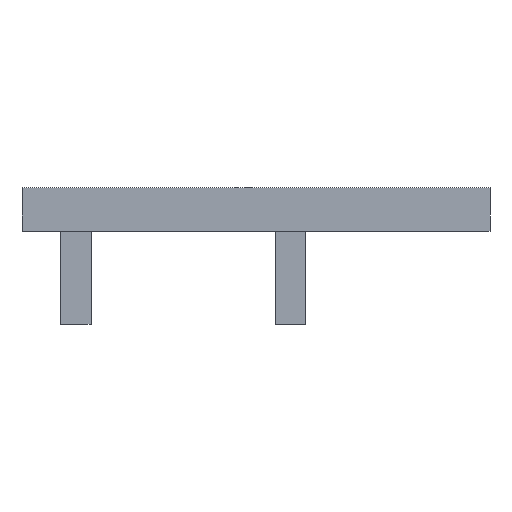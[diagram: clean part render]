
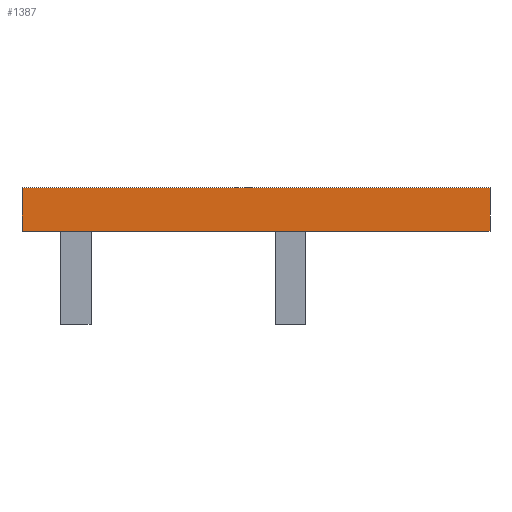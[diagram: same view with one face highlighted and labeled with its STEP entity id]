
A CAD part, left-side view. The second image highlights one B-rep face of the part: STEP entity #1387.
In plain terms, the highlighted planar face has unit normal (-1, 0, 0).
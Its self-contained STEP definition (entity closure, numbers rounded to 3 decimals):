
#125=DIRECTION('',(0.,0.,1.));
#126=VECTOR('',#125,57.);
#127=CARTESIAN_POINT('',(-225.,0.,-28.5));
#128=LINE('',#127,#126);
#477=DIRECTION('',(0.,0.,1.));
#478=VECTOR('',#477,57.);
#479=CARTESIAN_POINT('',(-225.,610.,-28.5));
#480=LINE('',#479,#478);
#505=DIRECTION('',(0.,1.,0.));
#506=VECTOR('',#505,610.);
#507=CARTESIAN_POINT('',(-225.,0.,28.5));
#508=LINE('',#507,#506);
#509=DIRECTION('',(0.,1.,0.));
#510=VECTOR('',#509,610.);
#511=CARTESIAN_POINT('',(-225.,0.,-28.5));
#512=LINE('',#511,#510);
#737=CARTESIAN_POINT('',(-225.,0.,28.5));
#739=VERTEX_POINT('',#737);
#742=CARTESIAN_POINT('',(-225.,0.,-28.5));
#744=VERTEX_POINT('',#742);
#753=CARTESIAN_POINT('',(-225.,610.,28.5));
#755=VERTEX_POINT('',#753);
#759=CARTESIAN_POINT('',(-225.,610.,-28.5));
#760=VERTEX_POINT('',#759);
#1376=CARTESIAN_POINT('',(-225.,0.,-28.5));
#1377=DIRECTION('',(-1.,0.,0.));
#1378=DIRECTION('',(0.,0.,1.));
#1379=AXIS2_PLACEMENT_3D('',#1376,#1377,#1378);
#1380=PLANE('',#1379);
#1381=ORIENTED_EDGE('',*,*,#950,.F.);
#1382=ORIENTED_EDGE('',*,*,#1325,.T.);
#1383=ORIENTED_EDGE('',*,*,#1341,.T.);
#1384=ORIENTED_EDGE('',*,*,#1369,.F.);
#1385=EDGE_LOOP('',(#1381,#1382,#1383,#1384));
#1386=FACE_OUTER_BOUND('',#1385,.F.);
#950=EDGE_CURVE('',#744,#739,#128,.T.);
#1325=EDGE_CURVE('',#744,#760,#512,.T.);
#1341=EDGE_CURVE('',#760,#755,#480,.T.);
#1369=EDGE_CURVE('',#739,#755,#508,.T.);
#1387=ADVANCED_FACE('',(#1386),#1380,.T.);
